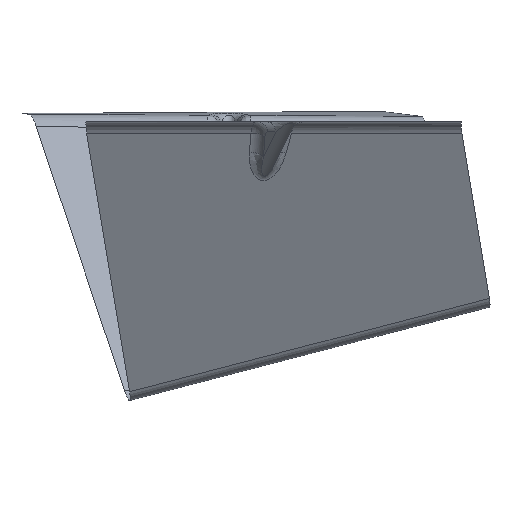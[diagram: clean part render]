
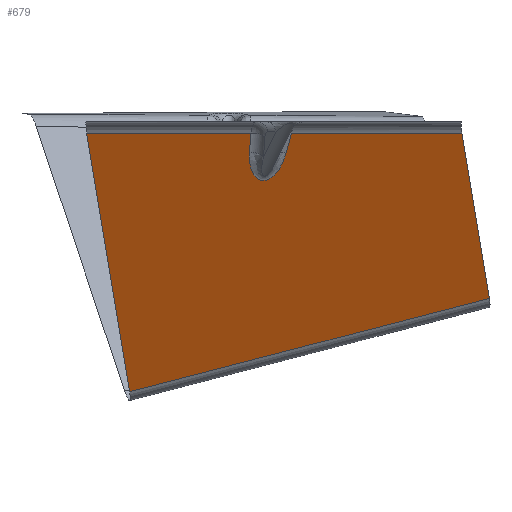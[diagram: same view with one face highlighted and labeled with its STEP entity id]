
A CAD part, left-side view. The second image highlights one B-rep face of the part: STEP entity #679.
In plain terms, the highlighted planar face has unit normal (-0.83, -0.249, -0.5).
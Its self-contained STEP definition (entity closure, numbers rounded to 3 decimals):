
#251=CARTESIAN_POINT('Vertex',(-76.277,6.116,-1.9)) ;
#274=CARTESIAN_POINT('Line Origine',(-61.695,7.829,-26.944)) ;
#278=CARTESIAN_POINT('Vertex',(-73.25,6.472,-7.1)) ;
#564=CARTESIAN_POINT('Control Point',(-70.307,-3.338,-7.1)) ;
#565=CARTESIAN_POINT('Control Point',(-70.12,-3.244,-7.457)) ;
#566=CARTESIAN_POINT('Control Point',(-69.936,-3.14,-7.813)) ;
#567=CARTESIAN_POINT('Control Point',(-69.756,-3.026,-8.169)) ;
#568=CARTESIAN_POINT('Control Point',(-69.408,-2.779,-8.869)) ;
#569=CARTESIAN_POINT('Control Point',(-69.077,-2.487,-9.563)) ;
#570=CARTESIAN_POINT('Control Point',(-68.919,-2.332,-9.903)) ;
#571=CARTESIAN_POINT('Control Point',(-68.627,-2.015,-10.544)) ;
#572=CARTESIAN_POINT('Control Point',(-68.357,-1.649,-11.176)) ;
#573=CARTESIAN_POINT('Control Point',(-68.234,-1.464,-11.471)) ;
#574=CARTESIAN_POINT('Control Point',(-68.019,-1.098,-12.01)) ;
#575=CARTESIAN_POINT('Control Point',(-67.83,-0.679,-12.532)) ;
#576=CARTESIAN_POINT('Control Point',(-67.751,-0.476,-12.765)) ;
#577=CARTESIAN_POINT('Control Point',(-67.621,-0.087,-13.173)) ;
#578=CARTESIAN_POINT('Control Point',(-67.525,0.356,-13.553)) ;
#579=CARTESIAN_POINT('Control Point',(-67.49,0.562,-13.714)) ;
#580=CARTESIAN_POINT('Control Point',(-67.445,0.948,-13.981)) ;
#581=CARTESIAN_POINT('Control Point',(-67.438,1.378,-14.205)) ;
#582=CARTESIAN_POINT('Control Point',(-67.444,1.572,-14.293)) ;
#583=CARTESIAN_POINT('Control Point',(-67.472,1.929,-14.424)) ;
#584=CARTESIAN_POINT('Control Point',(-67.536,2.306,-14.506)) ;
#585=CARTESIAN_POINT('Control Point',(-67.571,2.473,-14.531)) ;
#586=CARTESIAN_POINT('Control Point',(-67.669,2.857,-14.559)) ;
#587=CARTESIAN_POINT('Control Point',(-67.804,3.231,-14.521)) ;
#588=CARTESIAN_POINT('Control Point',(-67.89,3.432,-14.479)) ;
#589=CARTESIAN_POINT('Control Point',(-68.183,4.034,-14.292)) ;
#590=CARTESIAN_POINT('Control Point',(-68.522,4.514,-13.968)) ;
#591=CARTESIAN_POINT('Control Point',(-68.76,4.79,-13.712)) ;
#592=CARTESIAN_POINT('Control Point',(-69.159,5.19,-13.248)) ;
#593=CARTESIAN_POINT('Control Point',(-69.555,5.499,-12.745)) ;
#594=CARTESIAN_POINT('Control Point',(-69.718,5.613,-12.531)) ;
#595=CARTESIAN_POINT('Control Point',(-70.09,5.85,-12.033)) ;
#596=CARTESIAN_POINT('Control Point',(-70.455,6.032,-11.518)) ;
#597=CARTESIAN_POINT('Control Point',(-70.658,6.121,-11.225)) ;
#598=CARTESIAN_POINT('Control Point',(-71.113,6.291,-10.555)) ;
#599=CARTESIAN_POINT('Control Point',(-71.557,6.402,-9.873)) ;
#600=CARTESIAN_POINT('Control Point',(-71.801,6.447,-9.491)) ;
#601=CARTESIAN_POINT('Control Point',(-72.244,6.503,-8.785)) ;
#602=CARTESIAN_POINT('Control Point',(-72.675,6.513,-8.074)) ;
#603=CARTESIAN_POINT('Control Point',(-72.869,6.508,-7.75)) ;
#604=CARTESIAN_POINT('Control Point',(-73.06,6.494,-7.425)) ;
#605=CARTESIAN_POINT('Control Point',(-73.25,6.472,-7.1)) ;
#606=CARTESIAN_POINT('Vertex',(-70.307,-3.338,-7.1)) ;
#624=CARTESIAN_POINT('Axis2P3D Location',(-34.373,-10.312,-63.243)) ;
#629=CARTESIAN_POINT('Line Origine',(-71.668,-4.023,-4.5)) ;
#633=CARTESIAN_POINT('Vertex',(-73.03,-4.708,-1.9)) ;
#636=CARTESIAN_POINT('Line Origine',(-82.84,27.99,-1.9)) ;
#640=CARTESIAN_POINT('Vertex',(-89.402,49.865,-1.9)) ;
#643=CARTESIAN_POINT('Line Origine',(-66.908,44.146,-36.371)) ;
#647=CARTESIAN_POINT('Vertex',(-44.415,38.427,-70.842)) ;
#650=CARTESIAN_POINT('Line Origine',(-37.534,-9.508,-58.399)) ;
#654=CARTESIAN_POINT('Vertex',(-30.653,-57.444,-45.957)) ;
#657=CARTESIAN_POINT('Line Origine',(-45.028,-53.79,-23.928)) ;
#661=CARTESIAN_POINT('Vertex',(-59.402,-50.135,-1.9)) ;
#664=CARTESIAN_POINT('Line Origine',(-66.216,-27.422,-1.9)) ;
#275=DIRECTION('Vector Direction',(0.502,0.059,-0.863)) ;
#625=DIRECTION('Axis2P3D Direction',(0.83,0.249,0.5)) ;
#626=DIRECTION('Axis2P3D XDirection',(0.541,-0.138,-0.83)) ;
#630=DIRECTION('Vector Direction',(-0.452,-0.227,0.863)) ;
#637=DIRECTION('Vector Direction',(0.287,-0.958,0.)) ;
#644=DIRECTION('Vector Direction',(0.541,-0.138,-0.83)) ;
#651=DIRECTION('Vector Direction',(0.138,-0.959,0.249)) ;
#658=DIRECTION('Vector Direction',(-0.541,0.138,0.83)) ;
#665=DIRECTION('Vector Direction',(0.287,-0.958,0.)) ;
#627=AXIS2_PLACEMENT_3D('Plane Axis2P3D',#624,#625,#626) ;
#670=ORIENTED_EDGE('',*,*,#635,.T.) ;
#671=ORIENTED_EDGE('',*,*,#608,.T.) ;
#672=ORIENTED_EDGE('',*,*,#280,.T.) ;
#673=ORIENTED_EDGE('',*,*,#642,.F.) ;
#674=ORIENTED_EDGE('',*,*,#649,.T.) ;
#675=ORIENTED_EDGE('',*,*,#656,.T.) ;
#676=ORIENTED_EDGE('',*,*,#663,.T.) ;
#677=ORIENTED_EDGE('',*,*,#668,.F.) ;
#276=VECTOR('Line Direction',#275,1.) ;
#631=VECTOR('Line Direction',#630,1.) ;
#638=VECTOR('Line Direction',#637,1.) ;
#645=VECTOR('Line Direction',#644,1.) ;
#652=VECTOR('Line Direction',#651,1.) ;
#659=VECTOR('Line Direction',#658,1.) ;
#666=VECTOR('Line Direction',#665,1.) ;
#679=ADVANCED_FACE('Extract.1',(#678),#628,.F.) ;
#563=B_SPLINE_CURVE_WITH_KNOTS('',5,(#564,#565,#566,#567,#568,#569,#570,#571,#572,#573,#574,#575,#576,#577,#578,#579,#580,#581,#582,#583,#584,#585,#586,#587,#588,#589,#590,#591,#592,#593,#594,#595,#596,#597,#598,#599,#600,#601,#602,#603,#604,#605),.UNSPECIFIED.,.F.,.U.,(6,3,3,3,3,3,3,3,3,3,3,3,3,6),(18.44,21.208,23.886,26.293,28.316,29.911,31.11,32.034,33.233,35.838,37.686,40.078,43.09,45.609),.UNSPECIFIED.) ;
#280=EDGE_CURVE('',#279,#252,#277,.F.) ;
#608=EDGE_CURVE('',#607,#279,#563,.T.) ;
#635=EDGE_CURVE('',#634,#607,#632,.F.) ;
#642=EDGE_CURVE('',#641,#252,#639,.T.) ;
#649=EDGE_CURVE('',#641,#648,#646,.T.) ;
#656=EDGE_CURVE('',#648,#655,#653,.T.) ;
#663=EDGE_CURVE('',#655,#662,#660,.T.) ;
#668=EDGE_CURVE('',#634,#662,#667,.T.) ;
#669=EDGE_LOOP('',(#670,#671,#672,#673,#674,#675,#676,#677)) ;
#678=FACE_OUTER_BOUND('',#669,.T.) ;
#277=LINE('Line',#274,#276) ;
#632=LINE('Line',#629,#631) ;
#639=LINE('Line',#636,#638) ;
#646=LINE('Line',#643,#645) ;
#653=LINE('Line',#650,#652) ;
#660=LINE('Line',#657,#659) ;
#667=LINE('Line',#664,#666) ;
#628=PLANE('',#627) ;
#252=VERTEX_POINT('',#251) ;
#279=VERTEX_POINT('',#278) ;
#607=VERTEX_POINT('',#606) ;
#634=VERTEX_POINT('',#633) ;
#641=VERTEX_POINT('',#640) ;
#648=VERTEX_POINT('',#647) ;
#655=VERTEX_POINT('',#654) ;
#662=VERTEX_POINT('',#661) ;
